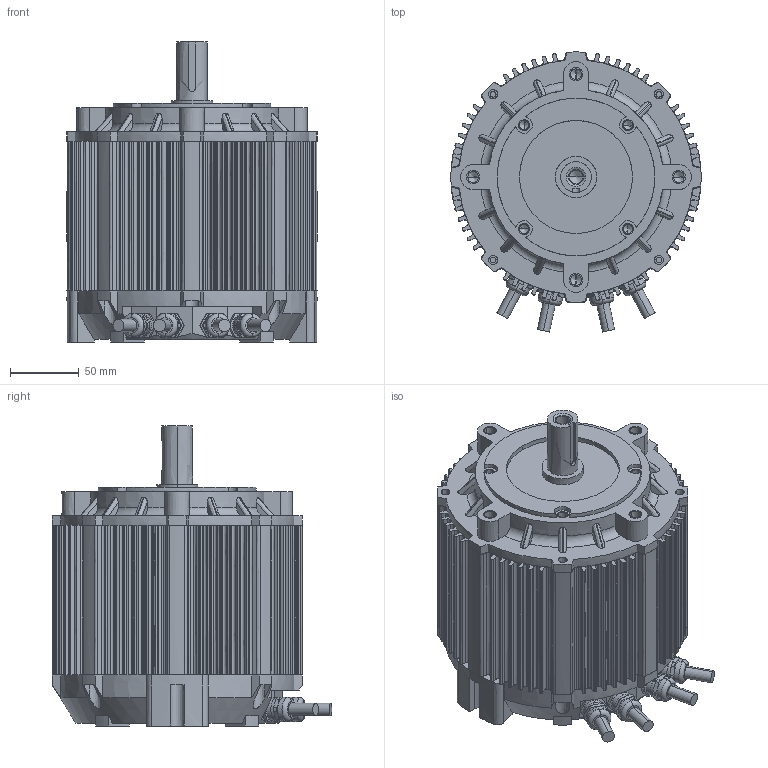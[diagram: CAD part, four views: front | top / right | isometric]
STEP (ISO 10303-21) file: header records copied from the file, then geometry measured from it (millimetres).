
FILE_DESCRIPTION((''),'2;1');
FILE_NAME('ASM0001_ASM','2018-05-08T',('Administrator'),(''),'PRO/ENGINEER BY PARAMETRIC TECHNOLOGY CORPORATION, 2008230','PRO/ENGINEER BY PARAMETRIC TECHNOLOGY CORPORATION, 2008230','');
FILE_SCHEMA(('AUTOMOTIVE_DESIGN_CC2 { 1 2 10303 214 -1 1 5 2 }'));
Length unit declared in the file: millimetre
Products named in the file (5): QIANGAI; JIKE; HOUGAI; FANGSHUIJIETOU; ASM0001_ASM
Assembly tree (7 placements, depth 2):
  ASM0001_ASM
    QIANGAI
    JIKE
    HOUGAI
    FANGSHUIJIETOU  x4
Bounding box: 181.47 x 202.89 x 217.6 mm (x, y, z)
Surface area: 362033.5 mm2 (no closed solid volume)
Topology: 0 solids, 0 shells, 1144 faces, 6212 edges, 6174 vertices
Faces by surface type: bspline 1118, torus 26
Entity records: 117765 total; most frequent: CARTESIAN_POINT 61509, DIRECTION 7773, TRIMMED_CURVE 6440, DEFINITIONAL_REPRESENTATION 5422, PCURVE 5422, COMPOSITE_CURVE_SEGMENT 5422, VECTOR 5171, LINE 5171
